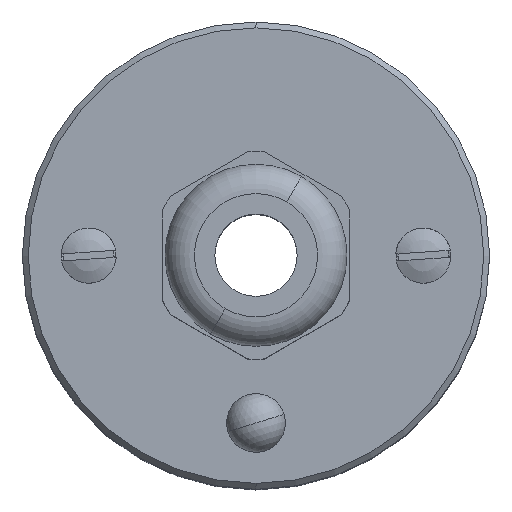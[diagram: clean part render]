
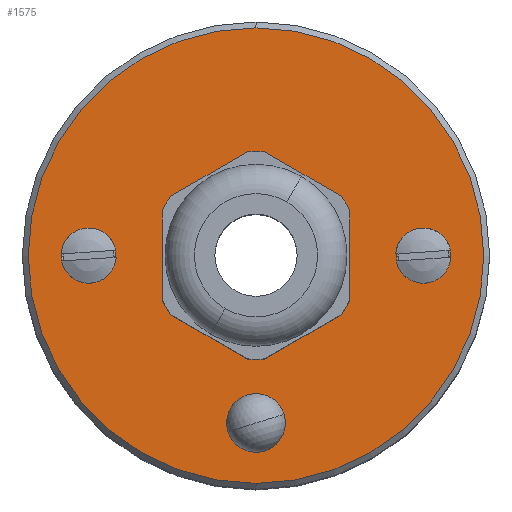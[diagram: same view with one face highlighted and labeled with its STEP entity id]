
A CAD part, top view. The second image highlights one B-rep face of the part: STEP entity #1575.
In plain terms, the highlighted planar face has unit normal (0, 0, 1).
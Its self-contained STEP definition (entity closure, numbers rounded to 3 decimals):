
#10 = VERTEX_POINT ( 'NONE', #503 ) ;
#19 = EDGE_CURVE ( 'NONE', #864, #2508, #76, .T. ) ;
#38 = FACE_OUTER_BOUND ( 'NONE', #2524, .T. ) ;
#62 = CIRCLE ( 'NONE', #2832, 2.3 ) ;
#76 = CIRCLE ( 'NONE', #2706, 5.1 ) ;
#93 = AXIS2_PLACEMENT_3D ( 'NONE', #2417, #975, #2661 ) ;
#147 = CARTESIAN_POINT ( 'NONE',  ( 14.25, -2.3, 55. ) ) ;
#194 = DIRECTION ( 'NONE',  ( 0., 1., 0. ) ) ;
#274 = DIRECTION ( 'NONE',  ( 0., 0., 1. ) ) ;
#279 = VERTEX_POINT ( 'NONE', #847 ) ;
#361 = DIRECTION ( 'NONE',  ( 0., 1., 0. ) ) ;
#389 = CARTESIAN_POINT ( 'NONE',  ( 0., 5.1, 55. ) ) ;
#401 = ORIENTED_EDGE ( 'NONE', *, *, #1432, .F. ) ;
#435 = FACE_BOUND ( 'NONE', #2921, .T. ) ;
#488 = EDGE_CURVE ( 'NONE', #279, #1924, #2310, .T. ) ;
#503 = CARTESIAN_POINT ( 'NONE',  ( 0., -16.5, 55. ) ) ;
#518 = VERTEX_POINT ( 'NONE', #933 ) ;
#526 = EDGE_CURVE ( 'NONE', #1924, #279, #2845, .T. ) ;
#553 = CIRCLE ( 'NONE', #1264, 2.25 ) ;
#555 = EDGE_LOOP ( 'NONE', ( #2097, #805 ) ) ;
#565 = VERTEX_POINT ( 'NONE', #2408 ) ;
#579 = CARTESIAN_POINT ( 'NONE',  ( 0., 0., 55. ) ) ;
#584 = EDGE_CURVE ( 'NONE', #518, #2545, #1521, .T. ) ;
#602 = CARTESIAN_POINT ( 'NONE',  ( 0., -14.25, 55. ) ) ;
#645 = CARTESIAN_POINT ( 'NONE',  ( 0., 0., 55. ) ) ;
#688 = DIRECTION ( 'NONE',  ( 0., 0., 1. ) ) ;
#775 = CIRCLE ( 'NONE', #1732, 5.1 ) ;
#805 = ORIENTED_EDGE ( 'NONE', *, *, #892, .F. ) ;
#845 = ORIENTED_EDGE ( 'NONE', *, *, #1785, .F. ) ;
#847 = CARTESIAN_POINT ( 'NONE',  ( 0., 19.4, 55. ) ) ;
#849 = CIRCLE ( 'NONE', #1893, 2.3 ) ;
#864 = VERTEX_POINT ( 'NONE', #1357 ) ;
#892 = EDGE_CURVE ( 'NONE', #898, #2643, #62, .T. ) ;
#898 = VERTEX_POINT ( 'NONE', #1874 ) ;
#929 = DIRECTION ( 'NONE',  ( 0., 1., 0. ) ) ;
#933 = CARTESIAN_POINT ( 'NONE',  ( 14.25, 2.3, 55. ) ) ;
#975 = DIRECTION ( 'NONE',  ( 0., 0., 1. ) ) ;
#977 = AXIS2_PLACEMENT_3D ( 'NONE', #645, #1848, #2324 ) ;
#1176 = CARTESIAN_POINT ( 'NONE',  ( 0., 0., 55. ) ) ;
#1182 = CARTESIAN_POINT ( 'NONE',  ( 0., 0., 55. ) ) ;
#1264 = AXIS2_PLACEMENT_3D ( 'NONE', #602, #2044, #361 ) ;
#1278 = DIRECTION ( 'NONE',  ( 0., 1., 0. ) ) ;
#1304 = FACE_BOUND ( 'NONE', #555, .T. ) ;
#1357 = CARTESIAN_POINT ( 'NONE',  ( 0., -5.1, 55. ) ) ;
#1397 = DIRECTION ( 'NONE',  ( 0., 0., 1. ) ) ;
#1408 = CARTESIAN_POINT ( 'NONE',  ( 0., -14.25, 55. ) ) ;
#1413 = DIRECTION ( 'NONE',  ( 0., 1., 0. ) ) ;
#1426 = DIRECTION ( 'NONE',  ( 0., 1., 0. ) ) ;
#1432 = EDGE_CURVE ( 'NONE', #10, #565, #1686, .T. ) ;
#1510 = CARTESIAN_POINT ( 'NONE',  ( -14.25, 0., 55. ) ) ;
#1521 = CIRCLE ( 'NONE', #93, 2.3 ) ;
#1575 = ADVANCED_FACE ( 'NONE', ( #2505, #1949, #435, #1304, #38 ), #2992, .T. ) ;
#1619 = AXIS2_PLACEMENT_3D ( 'NONE', #1408, #688, #929 ) ;
#1623 = DIRECTION ( 'NONE',  ( 0., 0., 1. ) ) ;
#1642 = DIRECTION ( 'NONE',  ( 0., 1., 0. ) ) ;
#1653 = CARTESIAN_POINT ( 'NONE',  ( 0., 0., 55. ) ) ;
#1686 = CIRCLE ( 'NONE', #1619, 2.25 ) ;
#1708 = AXIS2_PLACEMENT_3D ( 'NONE', #1715, #274, #1961 ) ;
#1715 = CARTESIAN_POINT ( 'NONE',  ( 14.25, 0., 55. ) ) ;
#1732 = AXIS2_PLACEMENT_3D ( 'NONE', #579, #1833, #2751 ) ;
#1734 = ORIENTED_EDGE ( 'NONE', *, *, #19, .F. ) ;
#1758 = AXIS2_PLACEMENT_3D ( 'NONE', #1176, #2863, #1413 ) ;
#1783 = EDGE_CURVE ( 'NONE', #2643, #898, #849, .T. ) ;
#1785 = EDGE_CURVE ( 'NONE', #2508, #864, #775, .T. ) ;
#1808 = EDGE_LOOP ( 'NONE', ( #845, #1734 ) ) ;
#1833 = DIRECTION ( 'NONE',  ( 0., 0., 1. ) ) ;
#1848 = DIRECTION ( 'NONE',  ( 0., 0., 1. ) ) ;
#1874 = CARTESIAN_POINT ( 'NONE',  ( -14.25, -2.3, 55. ) ) ;
#1893 = AXIS2_PLACEMENT_3D ( 'NONE', #1510, #2959, #1278 ) ;
#1924 = VERTEX_POINT ( 'NONE', #2455 ) ;
#1949 = FACE_BOUND ( 'NONE', #2358, .T. ) ;
#1961 = DIRECTION ( 'NONE',  ( 0., 1., 0. ) ) ;
#1962 = ORIENTED_EDGE ( 'NONE', *, *, #584, .F. ) ;
#2020 = CARTESIAN_POINT ( 'NONE',  ( -14.25, 2.3, 55. ) ) ;
#2044 = DIRECTION ( 'NONE',  ( 0., 0., 1. ) ) ;
#2097 = ORIENTED_EDGE ( 'NONE', *, *, #1783, .F. ) ;
#2155 = EDGE_CURVE ( 'NONE', #2545, #518, #2961, .T. ) ;
#2296 = ORIENTED_EDGE ( 'NONE', *, *, #2568, .F. ) ;
#2310 = CIRCLE ( 'NONE', #1758, 19.4 ) ;
#2322 = ORIENTED_EDGE ( 'NONE', *, *, #526, .T. ) ;
#2324 = DIRECTION ( 'NONE',  ( 0., 1., 0. ) ) ;
#2358 = EDGE_LOOP ( 'NONE', ( #2296, #401 ) ) ;
#2408 = CARTESIAN_POINT ( 'NONE',  ( 0., -12., 55. ) ) ;
#2417 = CARTESIAN_POINT ( 'NONE',  ( 14.25, 0., 55. ) ) ;
#2455 = CARTESIAN_POINT ( 'NONE',  ( 0., -19.4, 55. ) ) ;
#2505 = FACE_BOUND ( 'NONE', #1808, .T. ) ;
#2508 = VERTEX_POINT ( 'NONE', #389 ) ;
#2524 = EDGE_LOOP ( 'NONE', ( #2322, #3054 ) ) ;
#2545 = VERTEX_POINT ( 'NONE', #147 ) ;
#2568 = EDGE_CURVE ( 'NONE', #565, #10, #553, .T. ) ;
#2643 = VERTEX_POINT ( 'NONE', #2020 ) ;
#2661 = DIRECTION ( 'NONE',  ( 0., 1., 0. ) ) ;
#2706 = AXIS2_PLACEMENT_3D ( 'NONE', #1653, #1397, #1642 ) ;
#2751 = DIRECTION ( 'NONE',  ( 0., 1., 0. ) ) ;
#2783 = ORIENTED_EDGE ( 'NONE', *, *, #2155, .F. ) ;
#2832 = AXIS2_PLACEMENT_3D ( 'NONE', #3066, #1623, #194 ) ;
#2845 = CIRCLE ( 'NONE', #2995, 19.4 ) ;
#2863 = DIRECTION ( 'NONE',  ( 0., 0., 1. ) ) ;
#2872 = DIRECTION ( 'NONE',  ( 0., 0., 1. ) ) ;
#2921 = EDGE_LOOP ( 'NONE', ( #1962, #2783 ) ) ;
#2959 = DIRECTION ( 'NONE',  ( 0., 0., 1. ) ) ;
#2961 = CIRCLE ( 'NONE', #1708, 2.3 ) ;
#2992 = PLANE ( 'NONE',  #977 ) ;
#2995 = AXIS2_PLACEMENT_3D ( 'NONE', #1182, #2872, #1426 ) ;
#3054 = ORIENTED_EDGE ( 'NONE', *, *, #488, .T. ) ;
#3066 = CARTESIAN_POINT ( 'NONE',  ( -14.25, 0., 55. ) ) ;
